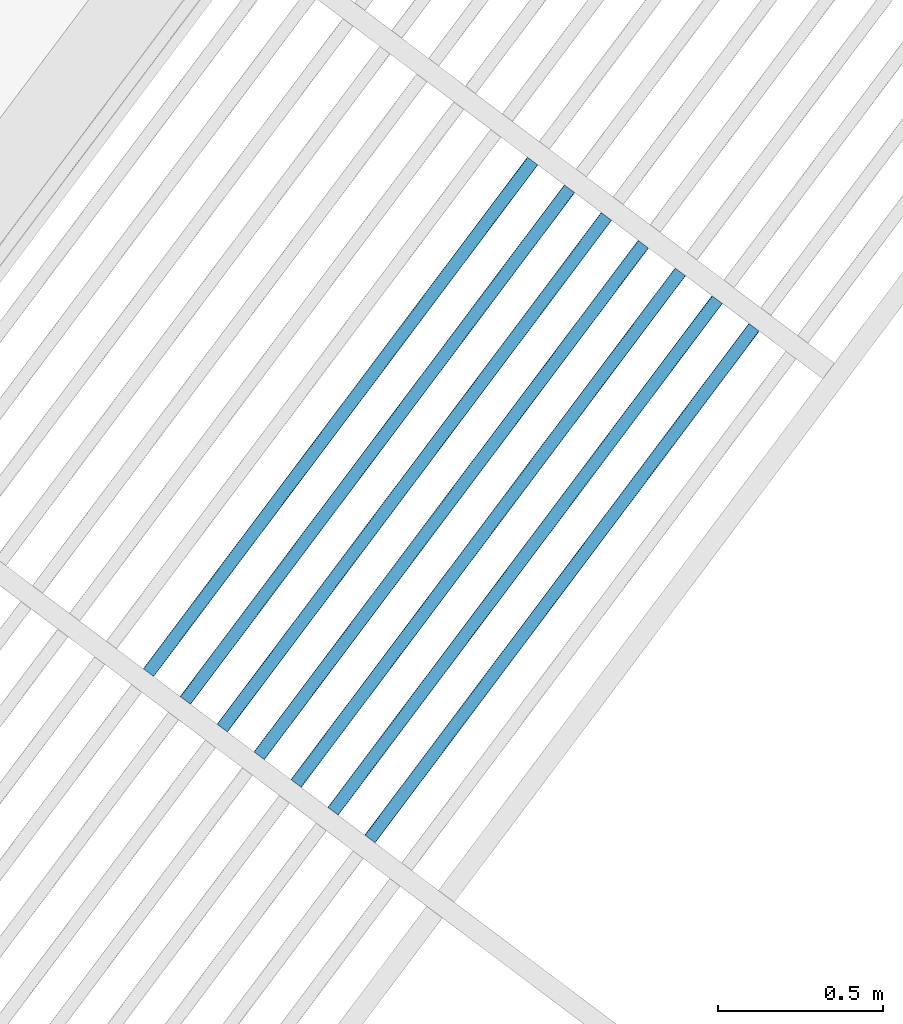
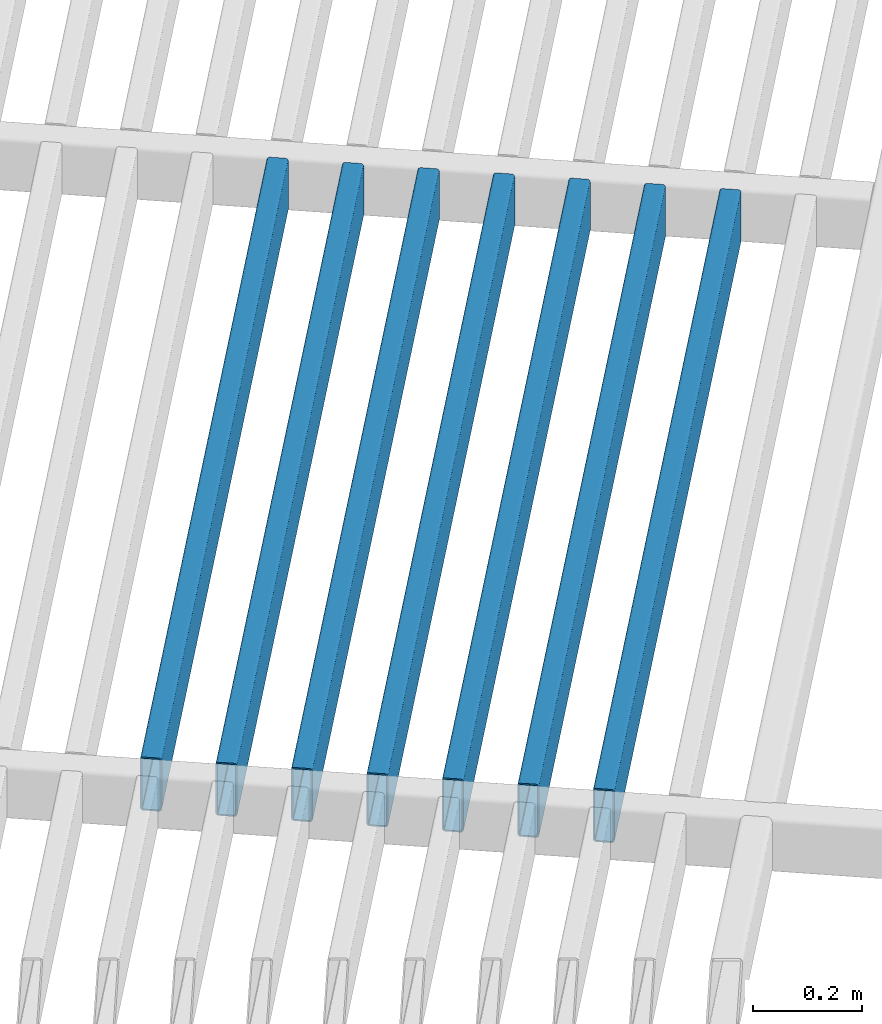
# One storey, part 73 of 95: 7 beams.
"""IFC2X3 building model written with IfcOpenShell, lengths in metres."""

from ifc_helpers import new_model, entity, si_unit, converted_unit, derived_unit, direction, frame, frame_2d, origin, place, context, subcontext, project, spatial, polyline, circle_curve, parameter, trimmed, segment, composite_curve, outline, extrude, material, type_object, element, save


model = new_model("IFC2X3")

# Units and contexts
model_context = context("Model", 3, precision=1e-05, world=origin(), true_north=direction((6.123031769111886e-17, 1.0)))
body_context = subcontext(model_context, "Body", "Model", "MODEL_VIEW")
ifc_project = project(units=[si_unit("LENGTHUNIT", "METRE"), si_unit("AREAUNIT", "SQUARE_METRE"), si_unit("VOLUMEUNIT", "CUBIC_METRE"), converted_unit("PLANEANGLEUNIT", "DEGREE", entity("IfcRatioMeasure", 0.017453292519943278), si_unit("PLANEANGLEUNIT", "RADIAN"), dimensions=[0, 0, 0, 0, 0, 0, 0]), si_unit("MASSUNIT", "GRAM", prefix="KILO"), derived_unit("MASSDENSITYUNIT", [(si_unit("MASSUNIT", "GRAM", prefix="KILO"), 1), (si_unit("LENGTHUNIT", "METRE"), -3)]), derived_unit("IONCONCENTRATIONUNIT", [(si_unit("MASSUNIT", "GRAM", prefix="KILO"), 1), (si_unit("LENGTHUNIT", "METRE"), -3)]), derived_unit("MOMENTOFINERTIAUNIT", [(si_unit("LENGTHUNIT", "METRE"), 4)]), si_unit("TIMEUNIT", "SECOND"), si_unit("FREQUENCYUNIT", "HERTZ"), si_unit("THERMODYNAMICTEMPERATUREUNIT", "DEGREE_CELSIUS"), derived_unit("THERMALTRANSMITTANCEUNIT", [(si_unit("MASSUNIT", "GRAM", prefix="KILO"), 1), (si_unit("THERMODYNAMICTEMPERATUREUNIT", "KELVIN"), -1), (si_unit("TIMEUNIT", "SECOND"), -3)]), derived_unit("THERMALCONDUCTANCEUNIT", [(si_unit("MASSUNIT", "GRAM", prefix="KILO"), 1), (si_unit("THERMODYNAMICTEMPERATUREUNIT", "KELVIN"), -1), (si_unit("TIMEUNIT", "SECOND"), -3), (si_unit("LENGTHUNIT", "METRE"), 1)]), derived_unit("VOLUMETRICFLOWRATEUNIT", [(si_unit("LENGTHUNIT", "METRE"), 3), (si_unit("TIMEUNIT", "SECOND"), -1)]), derived_unit("MASSFLOWRATEUNIT", [(si_unit("MASSUNIT", "GRAM", prefix="KILO"), 1), (si_unit("TIMEUNIT", "SECOND"), -1)]), derived_unit("ROTATIONALFREQUENCYUNIT", [(si_unit("TIMEUNIT", "SECOND"), -1)]), si_unit("ELECTRICCURRENTUNIT", "AMPERE"), si_unit("ELECTRICVOLTAGEUNIT", "VOLT"), si_unit("POWERUNIT", "WATT"), si_unit("FORCEUNIT", "NEWTON", prefix="KILO"), si_unit("ILLUMINANCEUNIT", "LUX"), si_unit("LUMINOUSFLUXUNIT", "LUMEN"), si_unit("LUMINOUSINTENSITYUNIT", "CANDELA"), derived_unit("USERDEFINED", [(si_unit("MASSUNIT", "GRAM", prefix="KILO"), -1), (si_unit("LENGTHUNIT", "METRE"), -2), (si_unit("TIMEUNIT", "SECOND"), 3), (si_unit("LUMINOUSFLUXUNIT", "LUMEN"), 1)]), derived_unit("USERDEFINED", [(si_unit("MASSUNIT", "GRAM", prefix="KILO"), 1), (si_unit("TIMEUNIT", "SECOND"), -3), (si_unit("LENGTHUNIT", "METRE"), 3), (si_unit("ELECTRICCURRENTUNIT", "AMPERE"), -2)]), derived_unit("SOUNDPOWERUNIT", [(si_unit("MASSUNIT", "GRAM", prefix="KILO"), 1), (si_unit("TIMEUNIT", "SECOND"), -3), (si_unit("LENGTHUNIT", "METRE"), 2)]), derived_unit("SOUNDPRESSUREUNIT", [(si_unit("MASSUNIT", "GRAM", prefix="KILO"), 1), (si_unit("LENGTHUNIT", "METRE"), -1), (si_unit("TIMEUNIT", "SECOND"), -2)]), derived_unit("LINEARVELOCITYUNIT", [(si_unit("LENGTHUNIT", "METRE"), 1), (si_unit("TIMEUNIT", "SECOND"), -1)]), si_unit("PRESSUREUNIT", "PASCAL"), derived_unit("USERDEFINED", [(si_unit("MASSUNIT", "GRAM", prefix="KILO"), 1), (si_unit("LENGTHUNIT", "METRE"), -2), (si_unit("TIMEUNIT", "SECOND"), -2)]), derived_unit("LINEARFORCEUNIT", [(si_unit("MASSUNIT", "GRAM", prefix="KILO"), 1), (si_unit("TIMEUNIT", "SECOND"), -2)]), derived_unit("PLANARFORCEUNIT", [(si_unit("MASSUNIT", "GRAM", prefix="KILO"), 1), (si_unit("LENGTHUNIT", "METRE"), -1), (si_unit("TIMEUNIT", "SECOND"), -2)]), derived_unit("SPECIFICHEATCAPACITYUNIT", [(si_unit("THERMODYNAMICTEMPERATUREUNIT", "KELVIN"), -1), (si_unit("LENGTHUNIT", "METRE"), 2), (si_unit("TIMEUNIT", "SECOND"), -2)]), derived_unit("HEATINGVALUEUNIT", [(si_unit("LENGTHUNIT", "METRE"), 2), (si_unit("TIMEUNIT", "SECOND"), -2)]), derived_unit("VAPORPERMEABILITYUNIT", [(si_unit("LENGTHUNIT", "METRE"), -1), (si_unit("TIMEUNIT", "SECOND"), 1)]), derived_unit("DYNAMICVISCOSITYUNIT", [(si_unit("MASSUNIT", "GRAM", prefix="KILO"), 1), (si_unit("TIMEUNIT", "SECOND"), -1), (si_unit("LENGTHUNIT", "METRE"), -1)]), derived_unit("THERMALEXPANSIONCOEFFICIENTUNIT", [(si_unit("THERMODYNAMICTEMPERATUREUNIT", "KELVIN"), -1)]), derived_unit("MODULUSOFELASTICITYUNIT", [(si_unit("MASSUNIT", "GRAM", prefix="KILO"), 1), (si_unit("LENGTHUNIT", "METRE"), -1), (si_unit("TIMEUNIT", "SECOND"), -2)]), derived_unit("ISOTHERMALMOISTURECAPACITYUNIT", [(si_unit("LENGTHUNIT", "METRE"), 3), (si_unit("MASSUNIT", "GRAM", prefix="KILO"), -1)]), derived_unit("MOISTUREDIFFUSIVITYUNIT", [(si_unit("TIMEUNIT", "SECOND"), -1), (si_unit("LENGTHUNIT", "METRE"), 2)])], contexts=[model_context])

# Site, building, storey
site_placement = place(None, origin())
site = spatial("IfcSite", under=ifc_project, at=site_placement, Name="Default", CompositionType="ELEMENT")
building_placement = place(site_placement, frame((0.0, 0.0, 235.0), z_axis=(0.0, 0.0, 1.0), x_axis=(-0.7996477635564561, 0.6004693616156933, 0.0)))
building = spatial("IfcBuilding", under=site, at=building_placement, CompositionType="ELEMENT")
storey_placement = place(building_placement, frame((0.0, 0.0, 3.400000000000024)))
storey = spatial("IfcBuildingStorey", under=building, at=storey_placement, Name="PC- Coberta STR", CompositionType="ELEMENT", Elevation=3.400000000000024)

# Beams
ifc_material = material(Name="_Acer- STR")
beam_type = type_object("IfcBeamType", Name="STR- V- Acer- RHS- Rectangular- T1:120x40RHS -", PredefinedType="NOTDEFINED")
beam_1_placement = place(storey_placement, frame((52.653552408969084, -30.385191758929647, 0.4984047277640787), z_axis=(0.0, 0.0, 1.0), x_axis=(0.0, -1.0, 0.0)))
element("IfcBeam", 1, at=beam_1_placement, inside=storey, type_object=beam_type, material=ifc_material, Name="STR- V- Acer- RHS- Rectangular- T1:120x40RHS -", ObjectType="STR- V- Acer- RHS- Rectangular- T1:120x40RHS -", context=body_context, shape_type="SweptSolid", body=[
    extrude(outline(composite_curve([segment(trimmed(circle_curve(frame_2d((-0.01400000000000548, -0.053999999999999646), x_axis=(1.0, 0.0)), 0.006), [parameter(180.0000000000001)], [parameter(269.99999999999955)], True, "PARAMETER"), True, "CONTINUOUS"), segment(polyline([(-0.01400000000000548, -0.0599999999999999), (0.013999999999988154, -0.0599999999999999)]), True, "CONTINUOUS"), segment(trimmed(circle_curve(frame_2d((0.013999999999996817, -0.053999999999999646), x_axis=(1.0, 0.0)), 0.006), [parameter(269.99999999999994)], [parameter(1.0177774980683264e-13)], True, "PARAMETER"), True, "CONTINUOUS"), segment(polyline([(0.019999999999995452, -0.053999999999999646), (0.019999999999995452, 0.05400000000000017)]), True, "CONTINUOUS"), segment(trimmed(circle_curve(frame_2d((0.013999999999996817, 0.05400000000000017), x_axis=(1.0, 0.0)), 0.006), [parameter(359.9999999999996)], [parameter(89.99999999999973)], True, "PARAMETER"), True, "CONTINUOUS"), segment(polyline([(0.013999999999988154, 0.059999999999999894), (-0.01400000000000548, 0.059999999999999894)]), True, "CONTINUOUS"), segment(trimmed(circle_curve(frame_2d((-0.01400000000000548, 0.05400000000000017), x_axis=(1.0, 0.0)), 0.006), [parameter(90.00000000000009)], [parameter(180.00000000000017)], True, "PARAMETER"), True, "CONTINUOUS"), segment(polyline([(-0.02000000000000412, 0.05400000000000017), (-0.02000000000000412, -0.05400000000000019)]), True, "CONTINUOUS")], self_intersect=False), holes=[composite_curve([segment(polyline([(0.013999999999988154, -0.05700000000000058), (-0.01400000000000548, -0.05700000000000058)]), True, "CONTINUOUS"), segment(trimmed(circle_curve(frame_2d((-0.01400000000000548, -0.05400000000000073), x_axis=(1.0, 0.0)), 0.003), [parameter(179.99999999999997)], [parameter(269.9999999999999)], True, "PARAMETER"), False, "CONTINUOUS"), segment(polyline([(-0.017000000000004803, -0.05400000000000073), (-0.017000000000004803, 0.05399999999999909)]), True, "CONTINUOUS"), segment(trimmed(circle_curve(frame_2d((-0.01400000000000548, 0.05399999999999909), x_axis=(1.0, 0.0)), 0.003), [parameter(90.00000000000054)], [parameter(180.0000000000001)], True, "PARAMETER"), False, "CONTINUOUS"), segment(polyline([(-0.01400000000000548, 0.056999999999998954), (0.013999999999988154, 0.056999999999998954)]), True, "CONTINUOUS"), segment(trimmed(circle_curve(frame_2d((0.013999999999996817, 0.05399999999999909), x_axis=(1.0, 0.0)), 0.003), [parameter(0.0)], [parameter(90.00000000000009)], True, "PARAMETER"), False, "CONTINUOUS"), segment(polyline([(0.016999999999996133, 0.05399999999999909), (0.016999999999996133, -0.05400000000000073)]), True, "CONTINUOUS"), segment(trimmed(circle_curve(frame_2d((0.013999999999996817, -0.05400000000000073), x_axis=(1.0, 0.0)), 0.003), [parameter(270.00000000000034)], [parameter(3.053332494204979e-13)], True, "PARAMETER"), False, "CONTINUOUS")], self_intersect=False)]), frame((-1.9399999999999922, 0.02159527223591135, 0.06159527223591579), z_axis=(1.0, 0.0, 0.0), x_axis=(0.0, -1.0, 0.0)), (0.0, 0.0, 1.0), 1.9399999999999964),
])
beam_2_placement = place(storey_placement, frame((52.51355240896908, -30.385191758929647, 0.4984047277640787), z_axis=(0.0, 0.0, 1.0), x_axis=(0.0, -1.0, 0.0)))
element("IfcBeam", 2, at=beam_2_placement, inside=storey, type_object=beam_type, material=ifc_material, Name="STR- V- Acer- RHS- Rectangular- T1:120x40RHS -", ObjectType="STR- V- Acer- RHS- Rectangular- T1:120x40RHS -", context=body_context, shape_type="SweptSolid", body=[
    extrude(outline(composite_curve([segment(trimmed(circle_curve(frame_2d((-0.01400000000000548, -0.053999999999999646), x_axis=(1.0, 0.0)), 0.006), [parameter(180.0000000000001)], [parameter(269.99999999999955)], True, "PARAMETER"), True, "CONTINUOUS"), segment(polyline([(-0.01400000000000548, -0.0599999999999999), (0.013999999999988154, -0.0599999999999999)]), True, "CONTINUOUS"), segment(trimmed(circle_curve(frame_2d((0.013999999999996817, -0.053999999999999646), x_axis=(1.0, 0.0)), 0.006), [parameter(269.99999999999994)], [parameter(1.0177774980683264e-13)], True, "PARAMETER"), True, "CONTINUOUS"), segment(polyline([(0.019999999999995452, -0.053999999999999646), (0.019999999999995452, 0.05400000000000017)]), True, "CONTINUOUS"), segment(trimmed(circle_curve(frame_2d((0.013999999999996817, 0.05400000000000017), x_axis=(1.0, 0.0)), 0.006), [parameter(359.9999999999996)], [parameter(89.99999999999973)], True, "PARAMETER"), True, "CONTINUOUS"), segment(polyline([(0.013999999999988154, 0.059999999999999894), (-0.01400000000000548, 0.059999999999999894)]), True, "CONTINUOUS"), segment(trimmed(circle_curve(frame_2d((-0.01400000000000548, 0.05400000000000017), x_axis=(1.0, 0.0)), 0.006), [parameter(90.00000000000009)], [parameter(180.00000000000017)], True, "PARAMETER"), True, "CONTINUOUS"), segment(polyline([(-0.02000000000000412, 0.05400000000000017), (-0.02000000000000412, -0.05400000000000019)]), True, "CONTINUOUS")], self_intersect=False), holes=[composite_curve([segment(polyline([(0.013999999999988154, -0.05700000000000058), (-0.01400000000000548, -0.05700000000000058)]), True, "CONTINUOUS"), segment(trimmed(circle_curve(frame_2d((-0.01400000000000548, -0.05400000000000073), x_axis=(1.0, 0.0)), 0.003), [parameter(179.99999999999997)], [parameter(269.9999999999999)], True, "PARAMETER"), False, "CONTINUOUS"), segment(polyline([(-0.017000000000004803, -0.05400000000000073), (-0.017000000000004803, 0.05399999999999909)]), True, "CONTINUOUS"), segment(trimmed(circle_curve(frame_2d((-0.01400000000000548, 0.05399999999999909), x_axis=(1.0, 0.0)), 0.003), [parameter(90.00000000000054)], [parameter(180.0000000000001)], True, "PARAMETER"), False, "CONTINUOUS"), segment(polyline([(-0.01400000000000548, 0.056999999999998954), (0.013999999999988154, 0.056999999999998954)]), True, "CONTINUOUS"), segment(trimmed(circle_curve(frame_2d((0.013999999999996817, 0.05399999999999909), x_axis=(1.0, 0.0)), 0.003), [parameter(0.0)], [parameter(90.00000000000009)], True, "PARAMETER"), False, "CONTINUOUS"), segment(polyline([(0.016999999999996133, 0.05399999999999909), (0.016999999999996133, -0.05400000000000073)]), True, "CONTINUOUS"), segment(trimmed(circle_curve(frame_2d((0.013999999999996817, -0.05400000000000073), x_axis=(1.0, 0.0)), 0.003), [parameter(270.00000000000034)], [parameter(3.053332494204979e-13)], True, "PARAMETER"), False, "CONTINUOUS")], self_intersect=False)]), frame((-1.9399999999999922, 0.02159527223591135, 0.06159527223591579), z_axis=(1.0, 0.0, 0.0), x_axis=(0.0, -1.0, 0.0)), (0.0, 0.0, 1.0), 1.9399999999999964),
])
beam_3_placement = place(storey_placement, frame((52.373552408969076, -30.385191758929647, 0.4984047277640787), z_axis=(0.0, 0.0, 1.0), x_axis=(0.0, -1.0, 0.0)))
element("IfcBeam", 3, at=beam_3_placement, inside=storey, type_object=beam_type, material=ifc_material, Name="STR- V- Acer- RHS- Rectangular- T1:120x40RHS -", ObjectType="STR- V- Acer- RHS- Rectangular- T1:120x40RHS -", context=body_context, shape_type="SweptSolid", body=[
    extrude(outline(composite_curve([segment(trimmed(circle_curve(frame_2d((-0.01400000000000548, -0.053999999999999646), x_axis=(1.0, 0.0)), 0.006), [parameter(180.0000000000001)], [parameter(269.99999999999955)], True, "PARAMETER"), True, "CONTINUOUS"), segment(polyline([(-0.01400000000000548, -0.0599999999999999), (0.013999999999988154, -0.0599999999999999)]), True, "CONTINUOUS"), segment(trimmed(circle_curve(frame_2d((0.013999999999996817, -0.053999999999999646), x_axis=(1.0, 0.0)), 0.006), [parameter(269.99999999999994)], [parameter(1.0177774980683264e-13)], True, "PARAMETER"), True, "CONTINUOUS"), segment(polyline([(0.019999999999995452, -0.053999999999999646), (0.019999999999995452, 0.05400000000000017)]), True, "CONTINUOUS"), segment(trimmed(circle_curve(frame_2d((0.013999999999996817, 0.05400000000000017), x_axis=(1.0, 0.0)), 0.006), [parameter(359.9999999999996)], [parameter(89.99999999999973)], True, "PARAMETER"), True, "CONTINUOUS"), segment(polyline([(0.013999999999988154, 0.059999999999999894), (-0.01400000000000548, 0.059999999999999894)]), True, "CONTINUOUS"), segment(trimmed(circle_curve(frame_2d((-0.01400000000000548, 0.05400000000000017), x_axis=(1.0, 0.0)), 0.006), [parameter(90.00000000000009)], [parameter(180.00000000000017)], True, "PARAMETER"), True, "CONTINUOUS"), segment(polyline([(-0.02000000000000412, 0.05400000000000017), (-0.02000000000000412, -0.05400000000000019)]), True, "CONTINUOUS")], self_intersect=False), holes=[composite_curve([segment(polyline([(0.013999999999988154, -0.05700000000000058), (-0.01400000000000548, -0.05700000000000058)]), True, "CONTINUOUS"), segment(trimmed(circle_curve(frame_2d((-0.01400000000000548, -0.05400000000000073), x_axis=(1.0, 0.0)), 0.003), [parameter(179.99999999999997)], [parameter(269.9999999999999)], True, "PARAMETER"), False, "CONTINUOUS"), segment(polyline([(-0.017000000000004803, -0.05400000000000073), (-0.017000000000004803, 0.05399999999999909)]), True, "CONTINUOUS"), segment(trimmed(circle_curve(frame_2d((-0.01400000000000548, 0.05399999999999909), x_axis=(1.0, 0.0)), 0.003), [parameter(90.00000000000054)], [parameter(180.0000000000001)], True, "PARAMETER"), False, "CONTINUOUS"), segment(polyline([(-0.01400000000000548, 0.056999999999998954), (0.013999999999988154, 0.056999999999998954)]), True, "CONTINUOUS"), segment(trimmed(circle_curve(frame_2d((0.013999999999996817, 0.05399999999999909), x_axis=(1.0, 0.0)), 0.003), [parameter(0.0)], [parameter(90.00000000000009)], True, "PARAMETER"), False, "CONTINUOUS"), segment(polyline([(0.016999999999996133, 0.05399999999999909), (0.016999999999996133, -0.05400000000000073)]), True, "CONTINUOUS"), segment(trimmed(circle_curve(frame_2d((0.013999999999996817, -0.05400000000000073), x_axis=(1.0, 0.0)), 0.003), [parameter(270.00000000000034)], [parameter(3.053332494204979e-13)], True, "PARAMETER"), False, "CONTINUOUS")], self_intersect=False)]), frame((-1.9399999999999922, 0.02159527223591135, 0.06159527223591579), z_axis=(1.0, 0.0, 0.0), x_axis=(0.0, -1.0, 0.0)), (0.0, 0.0, 1.0), 1.9399999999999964),
])
beam_4_placement = place(storey_placement, frame((52.233552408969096, -30.385191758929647, 0.4984047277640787), z_axis=(0.0, 0.0, 1.0), x_axis=(0.0, -1.0, 0.0)))
element("IfcBeam", 4, at=beam_4_placement, inside=storey, type_object=beam_type, material=ifc_material, Name="STR- V- Acer- RHS- Rectangular- T1:120x40RHS -", ObjectType="STR- V- Acer- RHS- Rectangular- T1:120x40RHS -", context=body_context, shape_type="SweptSolid", body=[
    extrude(outline(composite_curve([segment(trimmed(circle_curve(frame_2d((-0.01399999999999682, -0.053999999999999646), x_axis=(1.0, 0.0)), 0.006), [parameter(180.0000000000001)], [parameter(269.99999999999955)], True, "PARAMETER"), True, "CONTINUOUS"), segment(polyline([(-0.01399999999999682, -0.0599999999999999), (0.013999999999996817, -0.0599999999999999)]), True, "CONTINUOUS"), segment(trimmed(circle_curve(frame_2d((0.014000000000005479, -0.053999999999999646), x_axis=(1.0, 0.0)), 0.006), [parameter(269.99999999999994)], [parameter(1.0177774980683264e-13)], True, "PARAMETER"), True, "CONTINUOUS"), segment(polyline([(0.020000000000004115, -0.053999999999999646), (0.020000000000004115, 0.05400000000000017)]), True, "CONTINUOUS"), segment(trimmed(circle_curve(frame_2d((0.014000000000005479, 0.05400000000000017), x_axis=(1.0, 0.0)), 0.006), [parameter(359.9999999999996)], [parameter(89.99999999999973)], True, "PARAMETER"), True, "CONTINUOUS"), segment(polyline([(0.013999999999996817, 0.059999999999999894), (-0.01399999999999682, 0.059999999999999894)]), True, "CONTINUOUS"), segment(trimmed(circle_curve(frame_2d((-0.01399999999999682, 0.05400000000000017), x_axis=(1.0, 0.0)), 0.006), [parameter(90.00000000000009)], [parameter(180.00000000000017)], True, "PARAMETER"), True, "CONTINUOUS"), segment(polyline([(-0.019999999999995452, 0.05400000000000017), (-0.019999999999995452, -0.05400000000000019)]), True, "CONTINUOUS")], self_intersect=False), holes=[composite_curve([segment(polyline([(0.013999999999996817, -0.05700000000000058), (-0.01399999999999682, -0.05700000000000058)]), True, "CONTINUOUS"), segment(trimmed(circle_curve(frame_2d((-0.01399999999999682, -0.05400000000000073), x_axis=(1.0, 0.0)), 0.003), [parameter(179.99999999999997)], [parameter(269.9999999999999)], True, "PARAMETER"), False, "CONTINUOUS"), segment(polyline([(-0.016999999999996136, -0.05400000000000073), (-0.016999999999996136, 0.05399999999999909)]), True, "CONTINUOUS"), segment(trimmed(circle_curve(frame_2d((-0.01399999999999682, 0.05399999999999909), x_axis=(1.0, 0.0)), 0.003), [parameter(90.00000000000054)], [parameter(180.0000000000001)], True, "PARAMETER"), False, "CONTINUOUS"), segment(polyline([(-0.01399999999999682, 0.056999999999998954), (0.013999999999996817, 0.056999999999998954)]), True, "CONTINUOUS"), segment(trimmed(circle_curve(frame_2d((0.014000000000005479, 0.05399999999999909), x_axis=(1.0, 0.0)), 0.003), [parameter(0.0)], [parameter(90.00000000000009)], True, "PARAMETER"), False, "CONTINUOUS"), segment(polyline([(0.017000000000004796, 0.05399999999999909), (0.017000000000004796, -0.05400000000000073)]), True, "CONTINUOUS"), segment(trimmed(circle_curve(frame_2d((0.014000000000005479, -0.05400000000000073), x_axis=(1.0, 0.0)), 0.003), [parameter(270.00000000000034)], [parameter(3.053332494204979e-13)], True, "PARAMETER"), False, "CONTINUOUS")], self_intersect=False)]), frame((-1.9399999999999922, 0.02159527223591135, 0.06159527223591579), z_axis=(1.0, 0.0, 0.0), x_axis=(0.0, -1.0, 0.0)), (0.0, 0.0, 1.0), 1.9399999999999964),
])
beam_5_placement = place(storey_placement, frame((52.09355240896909, -30.385191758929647, 0.4984047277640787), z_axis=(0.0, 0.0, 1.0), x_axis=(0.0, -1.0, 0.0)))
element("IfcBeam", 5, at=beam_5_placement, inside=storey, type_object=beam_type, material=ifc_material, Name="STR- V- Acer- RHS- Rectangular- T1:120x40RHS -", ObjectType="STR- V- Acer- RHS- Rectangular- T1:120x40RHS -", context=body_context, shape_type="SweptSolid", body=[
    extrude(outline(composite_curve([segment(trimmed(circle_curve(frame_2d((-0.013999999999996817, -0.053999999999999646), x_axis=(1.0, 0.0)), 0.006), [parameter(180.0000000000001)], [parameter(269.99999999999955)], True, "PARAMETER"), True, "CONTINUOUS"), segment(polyline([(-0.013999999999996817, -0.0599999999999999), (0.013999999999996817, -0.0599999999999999)]), True, "CONTINUOUS"), segment(trimmed(circle_curve(frame_2d((0.01400000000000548, -0.053999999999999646), x_axis=(1.0, 0.0)), 0.006), [parameter(269.99999999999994)], [parameter(1.0177774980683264e-13)], True, "PARAMETER"), True, "CONTINUOUS"), segment(polyline([(0.020000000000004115, -0.053999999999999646), (0.020000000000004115, 0.05400000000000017)]), True, "CONTINUOUS"), segment(trimmed(circle_curve(frame_2d((0.01400000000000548, 0.05400000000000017), x_axis=(1.0, 0.0)), 0.006), [parameter(359.9999999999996)], [parameter(89.99999999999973)], True, "PARAMETER"), True, "CONTINUOUS"), segment(polyline([(0.013999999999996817, 0.059999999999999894), (-0.013999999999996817, 0.059999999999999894)]), True, "CONTINUOUS"), segment(trimmed(circle_curve(frame_2d((-0.013999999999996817, 0.05400000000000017), x_axis=(1.0, 0.0)), 0.006), [parameter(90.00000000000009)], [parameter(180.00000000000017)], True, "PARAMETER"), True, "CONTINUOUS"), segment(polyline([(-0.019999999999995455, 0.05400000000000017), (-0.019999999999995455, -0.05400000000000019)]), True, "CONTINUOUS")], self_intersect=False), holes=[composite_curve([segment(polyline([(0.013999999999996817, -0.05700000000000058), (-0.013999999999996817, -0.05700000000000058)]), True, "CONTINUOUS"), segment(trimmed(circle_curve(frame_2d((-0.013999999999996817, -0.05400000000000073), x_axis=(1.0, 0.0)), 0.003), [parameter(179.99999999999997)], [parameter(269.9999999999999)], True, "PARAMETER"), False, "CONTINUOUS"), segment(polyline([(-0.01699999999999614, -0.05400000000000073), (-0.01699999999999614, 0.05399999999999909)]), True, "CONTINUOUS"), segment(trimmed(circle_curve(frame_2d((-0.013999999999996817, 0.05399999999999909), x_axis=(1.0, 0.0)), 0.003), [parameter(90.00000000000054)], [parameter(180.0000000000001)], True, "PARAMETER"), False, "CONTINUOUS"), segment(polyline([(-0.013999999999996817, 0.056999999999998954), (0.013999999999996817, 0.056999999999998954)]), True, "CONTINUOUS"), segment(trimmed(circle_curve(frame_2d((0.01400000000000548, 0.05399999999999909), x_axis=(1.0, 0.0)), 0.003), [parameter(0.0)], [parameter(90.00000000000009)], True, "PARAMETER"), False, "CONTINUOUS"), segment(polyline([(0.017000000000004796, 0.05399999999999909), (0.017000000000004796, -0.05400000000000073)]), True, "CONTINUOUS"), segment(trimmed(circle_curve(frame_2d((0.01400000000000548, -0.05400000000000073), x_axis=(1.0, 0.0)), 0.003), [parameter(270.00000000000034)], [parameter(3.053332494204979e-13)], True, "PARAMETER"), False, "CONTINUOUS")], self_intersect=False)]), frame((-1.9399999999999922, 0.021595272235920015, 0.06159527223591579), z_axis=(1.0, 0.0, 0.0), x_axis=(0.0, -1.0, 0.0)), (0.0, 0.0, 1.0), 1.9399999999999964),
])
beam_6_placement = place(storey_placement, frame((51.95355240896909, -30.385191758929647, 0.4984047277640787), z_axis=(0.0, 0.0, 1.0), x_axis=(0.0, -1.0, 0.0)))
element("IfcBeam", 6, at=beam_6_placement, inside=storey, type_object=beam_type, material=ifc_material, Name="STR- V- Acer- RHS- Rectangular- T1:120x40RHS -", ObjectType="STR- V- Acer- RHS- Rectangular- T1:120x40RHS -", context=body_context, shape_type="SweptSolid", body=[
    extrude(outline(composite_curve([segment(trimmed(circle_curve(frame_2d((-0.013999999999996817, -0.053999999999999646), x_axis=(1.0, 0.0)), 0.006), [parameter(180.0000000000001)], [parameter(269.99999999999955)], True, "PARAMETER"), True, "CONTINUOUS"), segment(polyline([(-0.013999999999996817, -0.0599999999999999), (0.013999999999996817, -0.0599999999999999)]), True, "CONTINUOUS"), segment(trimmed(circle_curve(frame_2d((0.01400000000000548, -0.053999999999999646), x_axis=(1.0, 0.0)), 0.006), [parameter(269.99999999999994)], [parameter(1.0177774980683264e-13)], True, "PARAMETER"), True, "CONTINUOUS"), segment(polyline([(0.020000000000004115, -0.053999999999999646), (0.020000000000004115, 0.05400000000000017)]), True, "CONTINUOUS"), segment(trimmed(circle_curve(frame_2d((0.01400000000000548, 0.05400000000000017), x_axis=(1.0, 0.0)), 0.006), [parameter(359.9999999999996)], [parameter(89.99999999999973)], True, "PARAMETER"), True, "CONTINUOUS"), segment(polyline([(0.013999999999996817, 0.059999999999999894), (-0.013999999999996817, 0.059999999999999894)]), True, "CONTINUOUS"), segment(trimmed(circle_curve(frame_2d((-0.013999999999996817, 0.05400000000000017), x_axis=(1.0, 0.0)), 0.006), [parameter(90.00000000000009)], [parameter(180.00000000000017)], True, "PARAMETER"), True, "CONTINUOUS"), segment(polyline([(-0.019999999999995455, 0.05400000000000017), (-0.019999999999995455, -0.05400000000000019)]), True, "CONTINUOUS")], self_intersect=False), holes=[composite_curve([segment(polyline([(0.013999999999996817, -0.05700000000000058), (-0.013999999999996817, -0.05700000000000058)]), True, "CONTINUOUS"), segment(trimmed(circle_curve(frame_2d((-0.013999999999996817, -0.05400000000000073), x_axis=(1.0, 0.0)), 0.003), [parameter(179.99999999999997)], [parameter(269.9999999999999)], True, "PARAMETER"), False, "CONTINUOUS"), segment(polyline([(-0.01699999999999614, -0.05400000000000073), (-0.01699999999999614, 0.05399999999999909)]), True, "CONTINUOUS"), segment(trimmed(circle_curve(frame_2d((-0.013999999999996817, 0.05399999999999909), x_axis=(1.0, 0.0)), 0.003), [parameter(90.00000000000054)], [parameter(180.0000000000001)], True, "PARAMETER"), False, "CONTINUOUS"), segment(polyline([(-0.013999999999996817, 0.056999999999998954), (0.013999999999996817, 0.056999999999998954)]), True, "CONTINUOUS"), segment(trimmed(circle_curve(frame_2d((0.01400000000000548, 0.05399999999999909), x_axis=(1.0, 0.0)), 0.003), [parameter(0.0)], [parameter(90.00000000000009)], True, "PARAMETER"), False, "CONTINUOUS"), segment(polyline([(0.017000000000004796, 0.05399999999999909), (0.017000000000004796, -0.05400000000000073)]), True, "CONTINUOUS"), segment(trimmed(circle_curve(frame_2d((0.01400000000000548, -0.05400000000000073), x_axis=(1.0, 0.0)), 0.003), [parameter(270.00000000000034)], [parameter(3.053332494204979e-13)], True, "PARAMETER"), False, "CONTINUOUS")], self_intersect=False)]), frame((-1.9399999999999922, 0.021595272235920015, 0.06159527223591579), z_axis=(1.0, 0.0, 0.0), x_axis=(0.0, -1.0, 0.0)), (0.0, 0.0, 1.0), 1.9399999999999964),
])
beam_7_placement = place(storey_placement, frame((51.81355240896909, -30.385191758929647, 0.4984047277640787), z_axis=(0.0, 0.0, 1.0), x_axis=(0.0, -1.0, 0.0)))
element("IfcBeam", 7, at=beam_7_placement, inside=storey, type_object=beam_type, material=ifc_material, Name="STR- V- Acer- RHS- Rectangular- T1:120x40RHS -", ObjectType="STR- V- Acer- RHS- Rectangular- T1:120x40RHS -", context=body_context, shape_type="SweptSolid", body=[
    extrude(outline(composite_curve([segment(trimmed(circle_curve(frame_2d((-0.01400000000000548, -0.053999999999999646), x_axis=(1.0, 0.0)), 0.006), [parameter(180.0000000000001)], [parameter(269.99999999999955)], True, "PARAMETER"), True, "CONTINUOUS"), segment(polyline([(-0.01400000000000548, -0.0599999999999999), (0.013999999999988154, -0.0599999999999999)]), True, "CONTINUOUS"), segment(trimmed(circle_curve(frame_2d((0.013999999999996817, -0.053999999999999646), x_axis=(1.0, 0.0)), 0.006), [parameter(269.99999999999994)], [parameter(1.0177774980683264e-13)], True, "PARAMETER"), True, "CONTINUOUS"), segment(polyline([(0.019999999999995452, -0.053999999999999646), (0.019999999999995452, 0.05400000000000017)]), True, "CONTINUOUS"), segment(trimmed(circle_curve(frame_2d((0.013999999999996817, 0.05400000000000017), x_axis=(1.0, 0.0)), 0.006), [parameter(359.9999999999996)], [parameter(89.99999999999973)], True, "PARAMETER"), True, "CONTINUOUS"), segment(polyline([(0.013999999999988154, 0.059999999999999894), (-0.01400000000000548, 0.059999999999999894)]), True, "CONTINUOUS"), segment(trimmed(circle_curve(frame_2d((-0.01400000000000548, 0.05400000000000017), x_axis=(1.0, 0.0)), 0.006), [parameter(90.00000000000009)], [parameter(180.00000000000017)], True, "PARAMETER"), True, "CONTINUOUS"), segment(polyline([(-0.02000000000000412, 0.05400000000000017), (-0.02000000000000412, -0.05400000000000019)]), True, "CONTINUOUS")], self_intersect=False), holes=[composite_curve([segment(polyline([(0.013999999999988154, -0.05700000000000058), (-0.01400000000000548, -0.05700000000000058)]), True, "CONTINUOUS"), segment(trimmed(circle_curve(frame_2d((-0.01400000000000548, -0.05400000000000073), x_axis=(1.0, 0.0)), 0.003), [parameter(179.99999999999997)], [parameter(269.9999999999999)], True, "PARAMETER"), False, "CONTINUOUS"), segment(polyline([(-0.017000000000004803, -0.05400000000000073), (-0.017000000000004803, 0.05399999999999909)]), True, "CONTINUOUS"), segment(trimmed(circle_curve(frame_2d((-0.01400000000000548, 0.05399999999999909), x_axis=(1.0, 0.0)), 0.003), [parameter(90.00000000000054)], [parameter(180.0000000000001)], True, "PARAMETER"), False, "CONTINUOUS"), segment(polyline([(-0.01400000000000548, 0.056999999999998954), (0.013999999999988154, 0.056999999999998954)]), True, "CONTINUOUS"), segment(trimmed(circle_curve(frame_2d((0.013999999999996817, 0.05399999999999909), x_axis=(1.0, 0.0)), 0.003), [parameter(0.0)], [parameter(90.00000000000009)], True, "PARAMETER"), False, "CONTINUOUS"), segment(polyline([(0.016999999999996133, 0.05399999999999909), (0.016999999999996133, -0.05400000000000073)]), True, "CONTINUOUS"), segment(trimmed(circle_curve(frame_2d((0.013999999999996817, -0.05400000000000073), x_axis=(1.0, 0.0)), 0.003), [parameter(270.00000000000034)], [parameter(3.053332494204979e-13)], True, "PARAMETER"), False, "CONTINUOUS")], self_intersect=False)]), frame((-1.9399999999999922, 0.02159527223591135, 0.06159527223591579), z_axis=(1.0, 0.0, 0.0), x_axis=(0.0, -1.0, 0.0)), (0.0, 0.0, 1.0), 1.9399999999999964),
])

save(model, "model.ifc")
